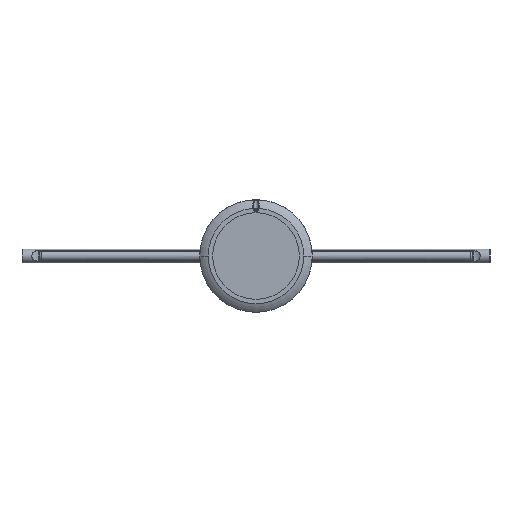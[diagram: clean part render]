
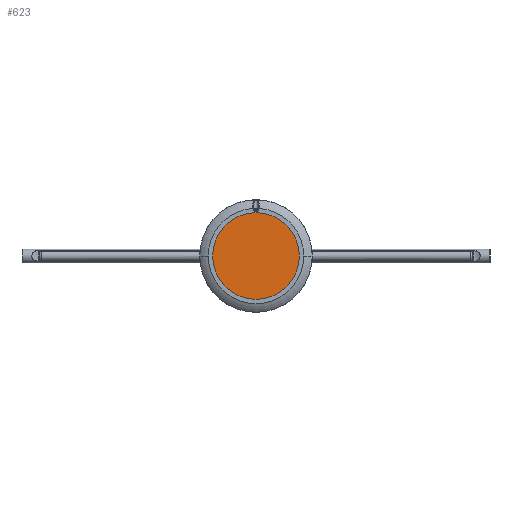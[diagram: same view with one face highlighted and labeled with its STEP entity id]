
A CAD part, front view. The second image highlights one B-rep face of the part: STEP entity #623.
In plain terms, the highlighted planar face has unit normal (0, -1, 0).
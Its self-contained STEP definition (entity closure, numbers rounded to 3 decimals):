
#150 = DIRECTION ( 'NONE',  ( 0., -1., 0. ) ) ;
#623 = ADVANCED_FACE ( 'NONE', ( #756 ), #4240, .T. ) ;
#756 = FACE_OUTER_BOUND ( 'NONE', #8316, .T. ) ;
#758 = CIRCLE ( 'NONE', #1220, 50. ) ;
#1143 = DIRECTION ( 'NONE',  ( -1., 0., 0. ) ) ;
#1170 = DIRECTION ( 'NONE',  ( 0., -1., 0. ) ) ;
#1220 = AXIS2_PLACEMENT_3D ( 'NONE', #4533, #1170, #1143 ) ;
#1441 = CARTESIAN_POINT ( 'NONE',  ( 0., -347.25, 0. ) ) ;
#1720 = VERTEX_POINT ( 'NONE', #1857 ) ;
#1857 = CARTESIAN_POINT ( 'NONE',  ( -50., -347.25, 0. ) ) ;
#1984 = DIRECTION ( 'NONE',  ( -1., 0., 0. ) ) ;
#2825 = CIRCLE ( 'NONE', #6654, 50. ) ;
#2864 = CARTESIAN_POINT ( 'NONE',  ( 50., -347.25, 0. ) ) ;
#3020 = EDGE_CURVE ( 'NONE', #4794, #1720, #758, .T. ) ;
#4240 = PLANE ( 'NONE',  #6788 ) ;
#4533 = CARTESIAN_POINT ( 'NONE',  ( 0., -347.25, 0. ) ) ;
#4721 = CARTESIAN_POINT ( 'NONE',  ( 0., -347.25, 0. ) ) ;
#4794 = VERTEX_POINT ( 'NONE', #2864 ) ;
#5313 = ORIENTED_EDGE ( 'NONE', *, *, #3020, .T. ) ;
#5619 = EDGE_CURVE ( 'NONE', #1720, #4794, #2825, .T. ) ;
#6198 = DIRECTION ( 'NONE',  ( -1., 0., 0. ) ) ;
#6555 = ORIENTED_EDGE ( 'NONE', *, *, #5619, .T. ) ;
#6654 = AXIS2_PLACEMENT_3D ( 'NONE', #4721, #6701, #1984 ) ;
#6701 = DIRECTION ( 'NONE',  ( 0., -1., 0. ) ) ;
#6788 = AXIS2_PLACEMENT_3D ( 'NONE', #1441, #150, #6198 ) ;
#8316 = EDGE_LOOP ( 'NONE', ( #6555, #5313 ) ) ;
